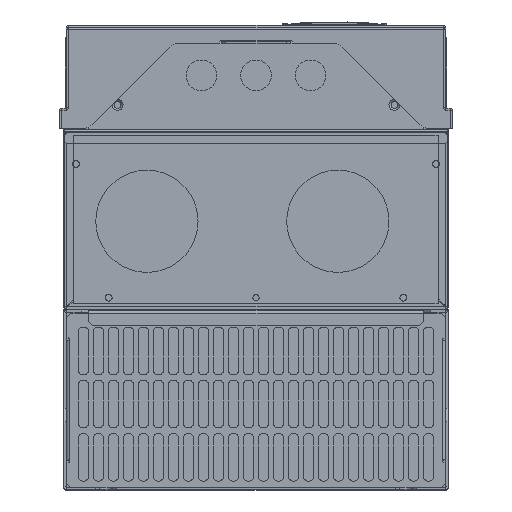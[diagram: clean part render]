
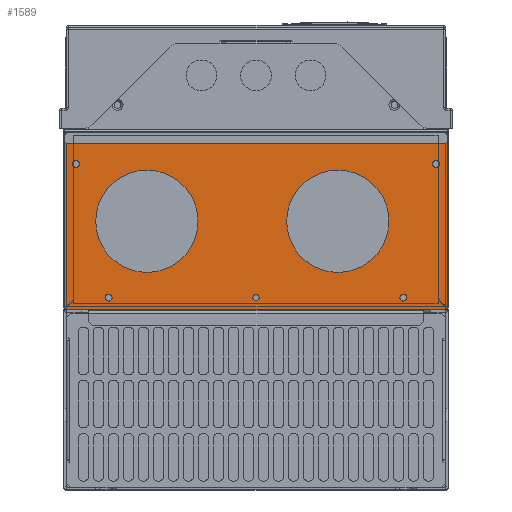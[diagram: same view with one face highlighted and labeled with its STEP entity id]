
A CAD part, front view. The second image highlights one B-rep face of the part: STEP entity #1589.
In plain terms, the highlighted planar face has unit normal (0, -1, 0).
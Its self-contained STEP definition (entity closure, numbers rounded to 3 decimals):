
#1437=CARTESIAN_POINT('',(0.,-96.1,-208.283));
#1438=DIRECTION('',(0.0,-1.0,0.0));
#1439=DIRECTION('',(1.0,0.0,0.0));
#1440=AXIS2_PLACEMENT_3D('',#1437,#1438,#1439);
#1441=PLANE('',#1440);
#1442=CARTESIAN_POINT('',(137.5,-96.1,-86.283));
#1443=VERTEX_POINT('',#1442);
#1444=CARTESIAN_POINT('',(140.5,-96.1,-83.283));
#1445=VERTEX_POINT('',#1444);
#1446=CARTESIAN_POINT('',(137.5,-96.1,-83.283));
#1447=DIRECTION('',(0.0,-1.0,0.0));
#1448=DIRECTION('',(0.0,0.0,-1.0));
#1449=AXIS2_PLACEMENT_3D('',#1446,#1447,#1448);
#1450=CIRCLE('',#1449,3.);
#1451=EDGE_CURVE('',#1443,#1445,#1450,.T.);
#1452=ORIENTED_EDGE('',*,*,#1451,.F.);
#1453=CARTESIAN_POINT('',(-137.5,-96.1,-86.283));
#1454=VERTEX_POINT('',#1453);
#1455=CARTESIAN_POINT('',(-137.5,-96.1,-86.283));
#1456=DIRECTION('',(1.0,0.0,0.0));
#1457=VECTOR('',#1456,275.0);
#1458=LINE('',#1455,#1457);
#1459=EDGE_CURVE('',#1454,#1443,#1458,.T.);
#1460=ORIENTED_EDGE('',*,*,#1459,.F.);
#1461=CARTESIAN_POINT('',(-140.5,-96.1,-83.283));
#1462=VERTEX_POINT('',#1461);
#1463=CARTESIAN_POINT('',(-137.5,-96.1,-83.283));
#1464=DIRECTION('',(0.0,-1.0,0.0));
#1465=DIRECTION('',(-1.0,0.0,0.0));
#1466=AXIS2_PLACEMENT_3D('',#1463,#1464,#1465);
#1467=CIRCLE('',#1466,3.);
#1468=EDGE_CURVE('',#1462,#1454,#1467,.T.);
#1469=ORIENTED_EDGE('',*,*,#1468,.F.);
#1470=CARTESIAN_POINT('',(-140.5,-96.1,-205.283));
#1471=VERTEX_POINT('',#1470);
#1472=CARTESIAN_POINT('',(-140.5,-96.1,-83.283));
#1473=DIRECTION('',(0.0,0.0,-1.0));
#1474=VECTOR('',#1473,122.);
#1475=LINE('',#1472,#1474);
#1476=EDGE_CURVE('',#1462,#1471,#1475,.T.);
#1477=ORIENTED_EDGE('',*,*,#1476,.T.);
#1478=CARTESIAN_POINT('',(-137.5,-96.1,-208.283));
#1479=VERTEX_POINT('',#1478);
#1480=CARTESIAN_POINT('',(-137.5,-96.1,-205.283));
#1481=DIRECTION('',(0.0,-1.0,0.0));
#1482=DIRECTION('',(-1.0,0.0,0.0));
#1483=AXIS2_PLACEMENT_3D('',#1480,#1481,#1482);
#1484=CIRCLE('',#1483,3.);
#1485=EDGE_CURVE('',#1471,#1479,#1484,.T.);
#1486=ORIENTED_EDGE('',*,*,#1485,.T.);
#1487=CARTESIAN_POINT('',(137.5,-96.1,-208.283));
#1488=VERTEX_POINT('',#1487);
#1489=CARTESIAN_POINT('',(-137.5,-96.1,-208.283));
#1490=DIRECTION('',(1.0,0.0,0.0));
#1491=VECTOR('',#1490,275.0);
#1492=LINE('',#1489,#1491);
#1493=EDGE_CURVE('',#1479,#1488,#1492,.T.);
#1494=ORIENTED_EDGE('',*,*,#1493,.T.);
#1495=CARTESIAN_POINT('',(140.5,-96.1,-205.283));
#1496=VERTEX_POINT('',#1495);
#1497=CARTESIAN_POINT('',(137.5,-96.1,-205.283));
#1498=DIRECTION('',(0.0,-1.0,0.0));
#1499=DIRECTION('',(0.0,0.0,-1.0));
#1500=AXIS2_PLACEMENT_3D('',#1497,#1498,#1499);
#1501=CIRCLE('',#1500,3.);
#1502=EDGE_CURVE('',#1488,#1496,#1501,.T.);
#1503=ORIENTED_EDGE('',*,*,#1502,.T.);
#1504=CARTESIAN_POINT('',(140.5,-96.1,-205.283));
#1505=DIRECTION('',(0.0,0.0,1.0));
#1506=VECTOR('',#1505,122.);
#1507=LINE('',#1504,#1506);
#1508=EDGE_CURVE('',#1496,#1445,#1507,.T.);
#1509=ORIENTED_EDGE('',*,*,#1508,.T.);
#1510=EDGE_LOOP('',(#1452,#1460,#1469,#1477,#1486,#1494,#1503,#1509));
#1511=FACE_OUTER_BOUND('',#1510,.T.);
#1512=CARTESIAN_POINT('',(0.,-96.1,-197.033));
#1513=VERTEX_POINT('',#1512);
#1514=CARTESIAN_POINT('',(0.,-96.1,-199.283));
#1515=DIRECTION('',(0.0,-1.0,0.0));
#1516=DIRECTION('',(0.0,0.0,1.0));
#1517=AXIS2_PLACEMENT_3D('',#1514,#1515,#1516);
#1518=CIRCLE('',#1517,2.25);
#1519=EDGE_CURVE('',#1513,#1513,#1518,.T.);
#1520=ORIENTED_EDGE('',*,*,#1519,.F.);
#1521=EDGE_LOOP('',(#1520));
#1522=FACE_BOUND('',#1521,.T.);
#1523=CARTESIAN_POINT('',(-134.5,-96.1,-101.283));
#1524=VERTEX_POINT('',#1523);
#1525=CARTESIAN_POINT('',(-132.,-96.1,-101.283));
#1526=DIRECTION('',(0.0,-1.0,0.0));
#1527=DIRECTION('',(-1.0,0.0,0.0));
#1528=AXIS2_PLACEMENT_3D('',#1525,#1526,#1527);
#1529=CIRCLE('',#1528,2.5);
#1530=EDGE_CURVE('',#1524,#1524,#1529,.T.);
#1531=ORIENTED_EDGE('',*,*,#1530,.F.);
#1532=EDGE_LOOP('',(#1531));
#1533=FACE_BOUND('',#1532,.T.);
#1534=CARTESIAN_POINT('',(129.5,-96.1,-101.283));
#1535=VERTEX_POINT('',#1534);
#1536=CARTESIAN_POINT('',(132.,-96.1,-101.283));
#1537=DIRECTION('',(0.0,-1.0,0.0));
#1538=DIRECTION('',(-1.0,0.0,0.0));
#1539=AXIS2_PLACEMENT_3D('',#1536,#1537,#1538);
#1540=CIRCLE('',#1539,2.5);
#1541=EDGE_CURVE('',#1535,#1535,#1540,.T.);
#1542=ORIENTED_EDGE('',*,*,#1541,.F.);
#1543=EDGE_LOOP('',(#1542));
#1544=FACE_BOUND('',#1543,.T.);
#1545=CARTESIAN_POINT('',(105.5,-96.1,-199.283));
#1546=VERTEX_POINT('',#1545);
#1547=CARTESIAN_POINT('',(108.0,-96.1,-199.283));
#1548=DIRECTION('',(0.0,-1.0,0.0));
#1549=DIRECTION('',(-1.0,0.0,0.0));
#1550=AXIS2_PLACEMENT_3D('',#1547,#1548,#1549);
#1551=CIRCLE('',#1550,2.5);
#1552=EDGE_CURVE('',#1546,#1546,#1551,.T.);
#1553=ORIENTED_EDGE('',*,*,#1552,.F.);
#1554=EDGE_LOOP('',(#1553));
#1555=FACE_BOUND('',#1554,.T.);
#1556=CARTESIAN_POINT('',(-110.5,-96.1,-199.283));
#1557=VERTEX_POINT('',#1556);
#1558=CARTESIAN_POINT('',(-108.0,-96.1,-199.283));
#1559=DIRECTION('',(0.0,-1.0,0.0));
#1560=DIRECTION('',(-1.0,0.0,0.0));
#1561=AXIS2_PLACEMENT_3D('',#1558,#1559,#1560);
#1562=CIRCLE('',#1561,2.5);
#1563=EDGE_CURVE('',#1557,#1557,#1562,.T.);
#1564=ORIENTED_EDGE('',*,*,#1563,.F.);
#1565=EDGE_LOOP('',(#1564));
#1566=FACE_BOUND('',#1565,.T.);
#1567=CARTESIAN_POINT('',(22.5,-96.1,-143.283));
#1568=VERTEX_POINT('',#1567);
#1569=CARTESIAN_POINT('',(60.,-96.1,-143.283));
#1570=DIRECTION('',(0.0,-1.0,0.0));
#1571=DIRECTION('',(-1.0,0.0,0.0));
#1572=AXIS2_PLACEMENT_3D('',#1569,#1570,#1571);
#1573=CIRCLE('',#1572,37.5);
#1574=EDGE_CURVE('',#1568,#1568,#1573,.T.);
#1575=ORIENTED_EDGE('',*,*,#1574,.F.);
#1576=EDGE_LOOP('',(#1575));
#1577=FACE_BOUND('',#1576,.T.);
#1578=CARTESIAN_POINT('',(-117.5,-96.1,-143.283));
#1579=VERTEX_POINT('',#1578);
#1580=CARTESIAN_POINT('',(-80.,-96.1,-143.283));
#1581=DIRECTION('',(0.0,-1.0,0.0));
#1582=DIRECTION('',(-1.0,0.0,0.0));
#1583=AXIS2_PLACEMENT_3D('',#1580,#1581,#1582);
#1584=CIRCLE('',#1583,37.5);
#1585=EDGE_CURVE('',#1579,#1579,#1584,.T.);
#1586=ORIENTED_EDGE('',*,*,#1585,.F.);
#1587=EDGE_LOOP('',(#1586));
#1588=FACE_BOUND('',#1587,.T.);
#1589=ADVANCED_FACE('',(#1511,#1522,#1533,#1544,#1555,#1566,#1577,#1588),#1441,.T.);
